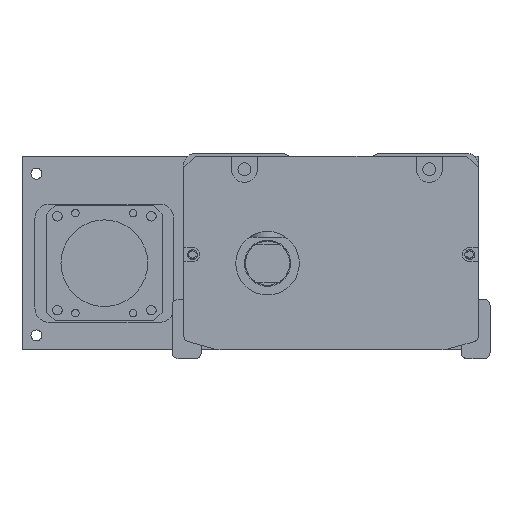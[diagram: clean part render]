
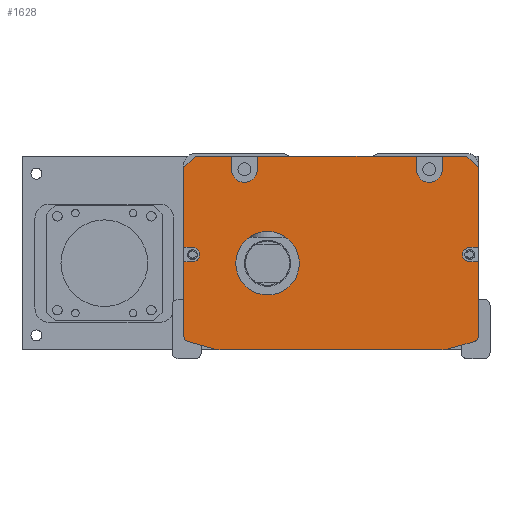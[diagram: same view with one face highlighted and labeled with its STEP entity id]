
A CAD part, front view. The second image highlights one B-rep face of the part: STEP entity #1628.
In plain terms, the highlighted planar face has unit normal (0, -1, 0).
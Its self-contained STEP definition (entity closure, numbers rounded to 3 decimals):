
#1628=ADVANCED_FACE('',(#4292,#4293),#2306,.F.);
#2306=PLANE('',#13565);
#2604=LINE('',#18821,#3405);
#2608=LINE('',#18829,#3409);
#2618=LINE('',#18850,#3419);
#2622=LINE('',#18858,#3423);
#2891=LINE('',#19851,#3692);
#2892=LINE('',#19853,#3693);
#2893=LINE('',#19855,#3694);
#2894=LINE('',#19859,#3695);
#2895=LINE('',#19861,#3696);
#2896=LINE('',#19863,#3697);
#2897=LINE('',#19867,#3698);
#2898=LINE('',#19869,#3699);
#2899=LINE('',#19871,#3700);
#2900=LINE('',#19872,#3701);
#2901=LINE('',#19876,#3702);
#2902=LINE('',#19879,#3703);
#2903=LINE('',#19883,#3704);
#2904=LINE('',#19887,#3705);
#2905=LINE('',#19890,#3706);
#2906=LINE('',#19894,#3707);
#3405=VECTOR('',#14809,1.);
#3409=VECTOR('',#14813,1.);
#3419=VECTOR('',#14825,1.);
#3423=VECTOR('',#14829,1.);
#3692=VECTOR('',#15894,1.);
#3693=VECTOR('',#15895,1.);
#3694=VECTOR('',#15896,1.);
#3695=VECTOR('',#15899,1.);
#3696=VECTOR('',#15900,1.);
#3697=VECTOR('',#15901,1.);
#3698=VECTOR('',#15904,1.);
#3699=VECTOR('',#15905,1.);
#3700=VECTOR('',#15906,1.);
#3701=VECTOR('',#15907,1.);
#3702=VECTOR('',#15910,1.);
#3703=VECTOR('',#15913,1.);
#3704=VECTOR('',#15916,1.);
#3705=VECTOR('',#15919,1.);
#3706=VECTOR('',#15922,1.);
#3707=VECTOR('',#15925,1.);
#4292=FACE_BOUND('',#4996,.T.);
#4293=FACE_BOUND('',#4997,.T.);
#4996=EDGE_LOOP('',(#6874,#6875,#6876,#6877,#6878,#6879,#6880,#6881,#6882,
#6883,#6884,#6885,#6886,#6887,#6888,#6889,#6890,#6891,#6892,#6893,#6894,
#6895,#6896,#6897,#6898,#6899,#6900,#6901));
#4997=EDGE_LOOP('',(#6902));
#6874=ORIENTED_EDGE('',*,*,#10758,.T.);
#6875=ORIENTED_EDGE('',*,*,#11242,.T.);
#6876=ORIENTED_EDGE('',*,*,#11243,.T.);
#6877=ORIENTED_EDGE('',*,*,#11244,.F.);
#6878=ORIENTED_EDGE('',*,*,#11245,.T.);
#6879=ORIENTED_EDGE('',*,*,#11246,.F.);
#6880=ORIENTED_EDGE('',*,*,#11247,.T.);
#6881=ORIENTED_EDGE('',*,*,#11248,.F.);
#6882=ORIENTED_EDGE('',*,*,#11249,.T.);
#6883=ORIENTED_EDGE('',*,*,#11250,.F.);
#6884=ORIENTED_EDGE('',*,*,#11251,.T.);
#6885=ORIENTED_EDGE('',*,*,#11252,.T.);
#6886=ORIENTED_EDGE('',*,*,#10776,.T.);
#6887=ORIENTED_EDGE('',*,*,#11253,.T.);
#6888=ORIENTED_EDGE('',*,*,#11254,.T.);
#6889=ORIENTED_EDGE('',*,*,#11255,.T.);
#6890=ORIENTED_EDGE('',*,*,#10772,.T.);
#6891=ORIENTED_EDGE('',*,*,#11256,.T.);
#6892=ORIENTED_EDGE('',*,*,#11257,.T.);
#6893=ORIENTED_EDGE('',*,*,#11258,.T.);
#6894=ORIENTED_EDGE('',*,*,#11259,.T.);
#6895=ORIENTED_EDGE('',*,*,#11260,.T.);
#6896=ORIENTED_EDGE('',*,*,#11261,.T.);
#6897=ORIENTED_EDGE('',*,*,#11262,.T.);
#6898=ORIENTED_EDGE('',*,*,#10762,.T.);
#6899=ORIENTED_EDGE('',*,*,#11263,.T.);
#6900=ORIENTED_EDGE('',*,*,#11264,.T.);
#6901=ORIENTED_EDGE('',*,*,#11265,.T.);
#6902=ORIENTED_EDGE('',*,*,#11266,.T.);
#9483=VERTEX_POINT('',#18820);
#9484=VERTEX_POINT('',#18822);
#9487=VERTEX_POINT('',#18828);
#9488=VERTEX_POINT('',#18830);
#9497=VERTEX_POINT('',#18849);
#9498=VERTEX_POINT('',#18851);
#9501=VERTEX_POINT('',#18857);
#9502=VERTEX_POINT('',#18859);
#9828=VERTEX_POINT('',#19852);
#9829=VERTEX_POINT('',#19854);
#9830=VERTEX_POINT('',#19856);
#9831=VERTEX_POINT('',#19858);
#9832=VERTEX_POINT('',#19860);
#9833=VERTEX_POINT('',#19862);
#9834=VERTEX_POINT('',#19864);
#9835=VERTEX_POINT('',#19866);
#9836=VERTEX_POINT('',#19868);
#9837=VERTEX_POINT('',#19870);
#9838=VERTEX_POINT('',#19873);
#9839=VERTEX_POINT('',#19875);
#9840=VERTEX_POINT('',#19878);
#9841=VERTEX_POINT('',#19880);
#9842=VERTEX_POINT('',#19882);
#9843=VERTEX_POINT('',#19884);
#9844=VERTEX_POINT('',#19886);
#9845=VERTEX_POINT('',#19888);
#9846=VERTEX_POINT('',#19891);
#9847=VERTEX_POINT('',#19893);
#9848=VERTEX_POINT('',#19896);
#10758=EDGE_CURVE('',#9484,#9483,#2604,.T.);
#10762=EDGE_CURVE('',#9488,#9487,#2608,.T.);
#10772=EDGE_CURVE('',#9498,#9497,#2618,.T.);
#10776=EDGE_CURVE('',#9502,#9501,#2622,.T.);
#11242=EDGE_CURVE('',#9483,#9828,#2891,.T.);
#11243=EDGE_CURVE('',#9828,#9829,#2892,.T.);
#11244=EDGE_CURVE('',#9830,#9829,#2893,.T.);
#11245=EDGE_CURVE('',#9830,#9831,#12636,.T.);
#11246=EDGE_CURVE('',#9832,#9831,#2894,.T.);
#11247=EDGE_CURVE('',#9832,#9833,#2895,.T.);
#11248=EDGE_CURVE('',#9834,#9833,#2896,.T.);
#11249=EDGE_CURVE('',#9834,#9835,#12637,.T.);
#11250=EDGE_CURVE('',#9836,#9835,#2897,.T.);
#11251=EDGE_CURVE('',#9836,#9837,#2898,.T.);
#11252=EDGE_CURVE('',#9837,#9502,#2899,.T.);
#11253=EDGE_CURVE('',#9501,#9838,#2900,.T.);
#11254=EDGE_CURVE('',#9838,#9839,#12638,.T.);
#11255=EDGE_CURVE('',#9839,#9498,#2901,.T.);
#11256=EDGE_CURVE('',#9497,#9840,#12639,.T.);
#11257=EDGE_CURVE('',#9840,#9841,#2902,.T.);
#11258=EDGE_CURVE('',#9841,#9842,#12640,.T.);
#11259=EDGE_CURVE('',#9842,#9843,#2903,.T.);
#11260=EDGE_CURVE('',#9843,#9844,#12641,.T.);
#11261=EDGE_CURVE('',#9844,#9845,#2904,.T.);
#11262=EDGE_CURVE('',#9845,#9488,#12642,.T.);
#11263=EDGE_CURVE('',#9487,#9846,#2905,.T.);
#11264=EDGE_CURVE('',#9846,#9847,#12643,.T.);
#11265=EDGE_CURVE('',#9847,#9484,#2906,.T.);
#11266=EDGE_CURVE('',#9848,#9848,#12644,.T.);
#12636=CIRCLE('',#13556,4.5);
#12637=CIRCLE('',#13557,4.5);
#12638=CIRCLE('',#13558,2.5);
#12639=CIRCLE('',#13559,2.);
#12640=CIRCLE('',#13560,10.);
#12641=CIRCLE('',#13561,10.);
#12642=CIRCLE('',#13562,2.);
#12643=CIRCLE('',#13563,2.5);
#12644=CIRCLE('',#13564,11.);
#13556=AXIS2_PLACEMENT_3D('',#19857,#15897,#15898);
#13557=AXIS2_PLACEMENT_3D('',#19865,#15902,#15903);
#13558=AXIS2_PLACEMENT_3D('',#19874,#15908,#15909);
#13559=AXIS2_PLACEMENT_3D('',#19877,#15911,#15912);
#13560=AXIS2_PLACEMENT_3D('',#19881,#15914,#15915);
#13561=AXIS2_PLACEMENT_3D('',#19885,#15917,#15918);
#13562=AXIS2_PLACEMENT_3D('',#19889,#15920,#15921);
#13563=AXIS2_PLACEMENT_3D('',#19892,#15923,#15924);
#13564=AXIS2_PLACEMENT_3D('',#19895,#15926,#15927);
#13565=AXIS2_PLACEMENT_3D('',#19897,#15928,#15929);
#14809=DIRECTION('',(0.,0.,1.));
#14813=DIRECTION('',(0.,0.,1.));
#14825=DIRECTION('',(0.,0.,-1.));
#14829=DIRECTION('',(0.,0.,-1.));
#15894=DIRECTION('',(-0.707,0.,0.707));
#15895=DIRECTION('',(-1.,0.,0.));
#15896=DIRECTION('',(0.,0.,1.));
#15897=DIRECTION('',(0.,1.,0.));
#15898=DIRECTION('',(0.,0.,1.));
#15899=DIRECTION('',(0.,0.,-1.));
#15900=DIRECTION('',(-1.,0.,0.));
#15901=DIRECTION('',(0.,0.,1.));
#15902=DIRECTION('',(0.,1.,0.));
#15903=DIRECTION('',(0.,0.,1.));
#15904=DIRECTION('',(0.,0.,-1.));
#15905=DIRECTION('',(-1.,0.,0.));
#15906=DIRECTION('',(-0.707,0.,-0.707));
#15907=DIRECTION('',(1.,0.,0.));
#15908=DIRECTION('',(0.,1.,0.));
#15909=DIRECTION('',(0.,0.,1.));
#15910=DIRECTION('',(-1.,0.,0.));
#15911=DIRECTION('',(0.,-1.,0.));
#15912=DIRECTION('',(0.,0.,1.));
#15913=DIRECTION('',(0.963,0.,-0.269));
#15914=DIRECTION('',(0.,-1.,0.));
#15915=DIRECTION('',(0.,0.,1.));
#15916=DIRECTION('',(1.,0.,0.));
#15917=DIRECTION('',(0.,-1.,0.));
#15918=DIRECTION('',(0.,0.,-1.));
#15919=DIRECTION('',(0.963,0.,0.269));
#15920=DIRECTION('',(0.,-1.,0.));
#15921=DIRECTION('',(0.,0.,-1.));
#15922=DIRECTION('',(-1.,0.,0.));
#15923=DIRECTION('',(0.,1.,0.));
#15924=DIRECTION('',(0.,0.,1.));
#15925=DIRECTION('',(1.,0.,0.));
#15926=DIRECTION('',(0.,1.,0.));
#15927=DIRECTION('',(0.,0.,1.));
#15928=DIRECTION('',(0.,1.,0.));
#15929=DIRECTION('',(1.,0.,0.));
#18820=CARTESIAN_POINT('',(47.808,-167.5,-5.));
#18821=CARTESIAN_POINT('',(47.808,-167.5,-1.));
#18822=CARTESIAN_POINT('',(47.808,-167.5,-32.5));
#18828=CARTESIAN_POINT('',(47.808,-167.5,-37.5));
#18829=CARTESIAN_POINT('',(47.808,-167.5,-1.));
#18830=CARTESIAN_POINT('',(47.808,-167.5,-63.212));
#18849=CARTESIAN_POINT('',(-54.192,-167.5,-63.212));
#18850=CARTESIAN_POINT('',(-54.192,-167.5,-62.));
#18851=CARTESIAN_POINT('',(-54.192,-167.5,-37.5));
#18857=CARTESIAN_POINT('',(-54.192,-167.5,-32.5));
#18858=CARTESIAN_POINT('',(-54.192,-167.5,-62.));
#18859=CARTESIAN_POINT('',(-54.192,-167.5,-5.));
#19851=CARTESIAN_POINT('',(43.808,-167.5,-1.));
#19852=CARTESIAN_POINT('',(43.808,-167.5,-1.));
#19853=CARTESIAN_POINT('',(-3.192,-167.5,-1.));
#19854=CARTESIAN_POINT('',(35.308,-167.5,-1.));
#19855=CARTESIAN_POINT('',(35.308,-167.5,-1.));
#19856=CARTESIAN_POINT('',(35.308,-167.5,-5.5));
#19857=CARTESIAN_POINT('',(30.808,-167.5,-5.5));
#19858=CARTESIAN_POINT('',(26.308,-167.5,-5.5));
#19859=CARTESIAN_POINT('',(26.308,-167.5,-1.));
#19860=CARTESIAN_POINT('',(26.308,-167.5,-1.));
#19861=CARTESIAN_POINT('',(-54.192,-167.5,-1.));
#19862=CARTESIAN_POINT('',(-28.692,-167.5,-1.));
#19863=CARTESIAN_POINT('',(-28.692,-167.5,-3.5));
#19864=CARTESIAN_POINT('',(-28.692,-167.5,-5.5));
#19865=CARTESIAN_POINT('',(-33.192,-167.5,-5.5));
#19866=CARTESIAN_POINT('',(-37.692,-167.5,-5.5));
#19867=CARTESIAN_POINT('',(-37.692,-167.5,-1.));
#19868=CARTESIAN_POINT('',(-37.692,-167.5,-1.));
#19869=CARTESIAN_POINT('',(-54.192,-167.5,-1.));
#19870=CARTESIAN_POINT('',(-50.192,-167.5,-1.));
#19871=CARTESIAN_POINT('',(-54.192,-167.5,-5.));
#19872=CARTESIAN_POINT('',(-3.192,-167.5,-32.5));
#19873=CARTESIAN_POINT('',(-51.192,-167.5,-32.5));
#19874=CARTESIAN_POINT('',(-51.192,-167.5,-35.));
#19875=CARTESIAN_POINT('',(-51.192,-167.5,-37.5));
#19876=CARTESIAN_POINT('',(-3.192,-167.5,-37.5));
#19877=CARTESIAN_POINT('',(-52.192,-167.5,-63.212));
#19878=CARTESIAN_POINT('',(-52.731,-167.5,-65.138));
#19879=CARTESIAN_POINT('',(-55.807,-167.5,-64.279));
#19880=CARTESIAN_POINT('',(-43.809,-167.5,-67.631));
#19881=CARTESIAN_POINT('',(-41.118,-167.5,-58.));
#19882=CARTESIAN_POINT('',(-41.118,-167.5,-68.));
#19883=CARTESIAN_POINT('',(-54.692,-167.5,-68.));
#19884=CARTESIAN_POINT('',(34.733,-167.5,-68.));
#19885=CARTESIAN_POINT('',(34.733,-167.5,-58.));
#19886=CARTESIAN_POINT('',(37.424,-167.5,-67.631));
#19887=CARTESIAN_POINT('',(49.422,-167.5,-64.279));
#19888=CARTESIAN_POINT('',(46.346,-167.5,-65.138));
#19889=CARTESIAN_POINT('',(45.808,-167.5,-63.212));
#19890=CARTESIAN_POINT('',(-3.192,-167.5,-37.5));
#19891=CARTESIAN_POINT('',(44.808,-167.5,-37.5));
#19892=CARTESIAN_POINT('',(44.808,-167.5,-35.));
#19893=CARTESIAN_POINT('',(44.808,-167.5,-32.5));
#19894=CARTESIAN_POINT('',(-3.192,-167.5,-32.5));
#19895=CARTESIAN_POINT('',(-25.192,-167.5,-38.));
#19896=CARTESIAN_POINT('',(-25.192,-167.5,-27.));
#19897=CARTESIAN_POINT('',(-3.192,-167.5,-1.));
